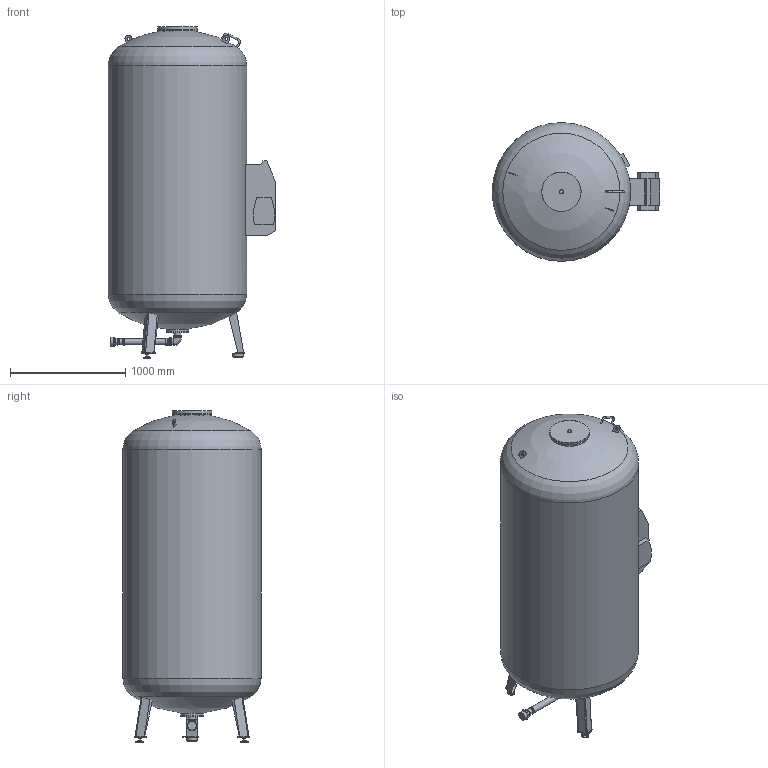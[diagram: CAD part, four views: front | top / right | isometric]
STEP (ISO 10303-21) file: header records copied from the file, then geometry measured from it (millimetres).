
FILE_DESCRIPTION(/* description */ (''),/* implementation_level */ '2;1');
FILE_NAME(/* name */ '\\DATASERVER\data\Flamco\3D-Modellen\Inventor\Flamcomat\2021_Flamcomat MK-U G4\flamcomat_mk-u_g4_2800_10.stp',/* time_stamp */ '2021-11-29T10:55:28+01:00',/* author */ ('kasius'),/* organization */ (''),/* preprocessor_version */ 'ST-DEVELOPER v17',/* originating_system */ 'Autodesk Inventor 2018',/* authorisation */ '');
FILE_SCHEMA (('AUTOMOTIVE_DESIGN { 1 0 10303 214 3 1 1 }'));
Length unit declared in the file: millimetre
Products named in the file (1): flamcomat_mk-u_g4_2800_10
Bounding box: 1453.04 x 1200 x 2880.5 mm (x, y, z)
Volume: 2749949609.1 mm3; surface area: 11946420.7 mm2
Topology: 5 solids, 5 shells, 289 faces, 767 edges, 521 vertices
Faces by surface type: plane 163, cone 63, cylinder 55, torus 4, bspline 2, sphere 2
Full cylindrical faces by diameter (mm): 16 x5, 20 x2, 24 x2, 33 x2, 38.75 x1, 47.67 x1, 52.97 x1, 53.97 x1, 56.07 x1, 57.97 x1, 58.97 x1, 59.97 x1, 60.3 x1, 65 x4, 68.51 x1, 71 x1, 75 x1, 90 x1, 162 x1, 198 x2, 306 x1, 342 x2, 1200 x1
Entity records: 9450 total; most frequent: CARTESIAN_POINT 1871, DIRECTION 1577, ORIENTED_EDGE 1534, EDGE_CURVE 767, AXIS2_PLACEMENT_3D 588, VERTEX_POINT 521, LINE 401, VECTOR 401
